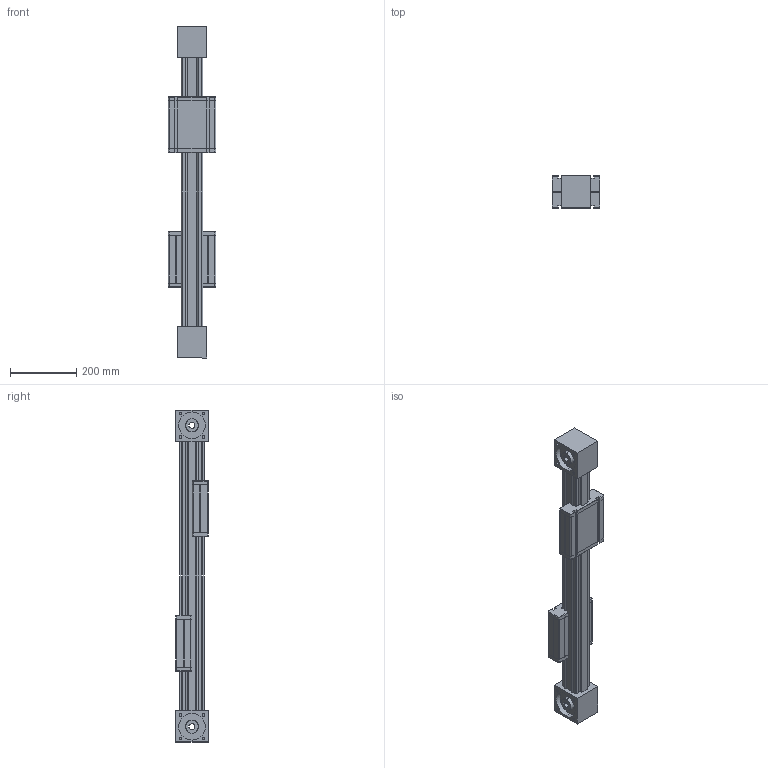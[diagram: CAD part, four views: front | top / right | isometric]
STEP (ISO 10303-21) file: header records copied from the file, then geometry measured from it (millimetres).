
FILE_DESCRIPTION (( 'STEP AP214' ), '1' );
FILE_NAME ('ELZG60.STEP', '2022-07-21T09:36:09', ( '' ), ( '' ), 'SwSTEP 2.0', 'SolidWorks 2020', '' );
FILE_SCHEMA (( 'AUTOMOTIVE_DESIGN' ));
Length unit declared in the file: millimetre
Products named in the file (5): timing belt reverse unit^ELZG60_coupling claw pos.2; carriage^ELZG60_A; profile^ELZG60_4x guide rod; timing belt reverse unit^ELZG60_coupling claw pos.1; ELZG60
Assembly tree (5 placements, depth 2):
  ELZG60
    profile^ELZG60_4x guide rod
    carriage^ELZG60_A  x2
    timing belt reverse unit^ELZG60_coupling claw pos.1
    timing belt reverse unit^ELZG60_coupling claw pos.2
Bounding box: 144 x 98 x 1000 mm (x, y, z)
Volume: 5697935.8 mm3; surface area: 844327 mm2
Topology: 15 solids, 15 shells, 536 faces, 1410 edges, 928 vertices
Faces by surface type: plane 334, cylinder 182, torus 16, cone 4
Entity records: 11558 total; most frequent: DIRECTION 1985, CARTESIAN_POINT 1930, ORIENTED_EDGE 1874, EDGE_CURVE 937, AXIS2_PLACEMENT_3D 673, VECTOR 639, LINE 639, VERTEX_POINT 618
